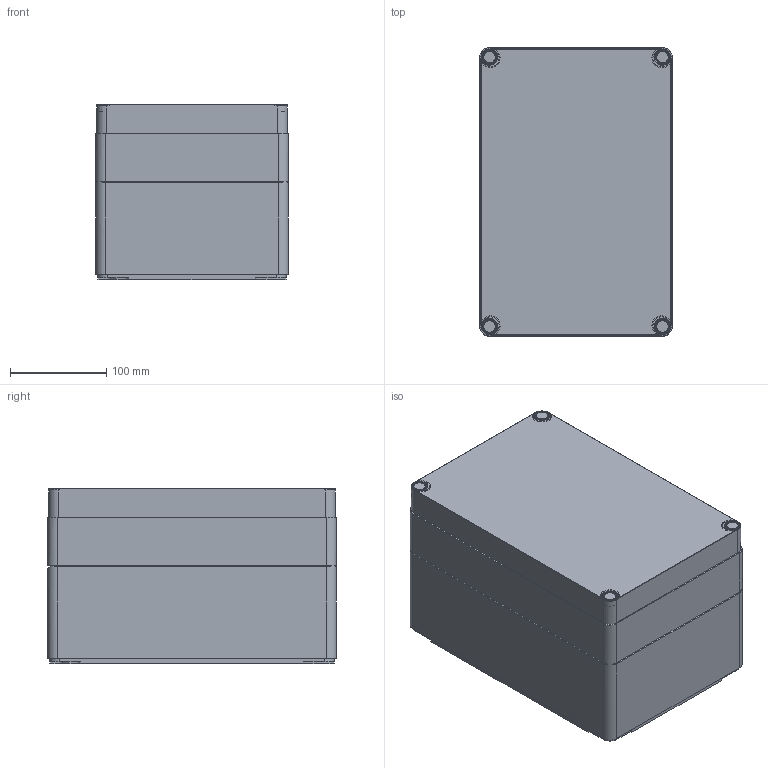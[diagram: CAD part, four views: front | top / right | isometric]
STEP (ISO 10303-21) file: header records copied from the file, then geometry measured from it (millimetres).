
FILE_DESCRIPTION((''),'1');
FILE_NAME('46','2001-04-17T',('jlue'),(''),'PRO/ENGINEER BY PARAMETRIC TECHNOLOGY CORPORATION, 9846','PRO/ENGINEER BY PARAMETRIC TECHNOLOGY CORPORATION, 9846','');
FILE_SCHEMA(('CONFIG_CONTROL_DESIGN'));
Length unit declared in the file: millimetre
Products named in the file (1): 46
Bounding box: 200 x 300 x 182 mm (x, y, z)
Surface area: 603145.6 mm2 (no closed solid volume)
Topology: 0 solids, 0 shells, 487 faces, 2456 edges, 2524 vertices
Faces by surface type: plane 235, cylinder 232, torus 20
Entity records: 12716 total; most frequent: DIRECTION 2726, COMPOSITE_CURVE_SEGMENT 2328, CARTESIAN_POINT 1843, TRIMMED_CURVE 1244, AXIS2_PLACEMENT_3D 995, VECTOR 736, LINE 736, CIRCLE 508
